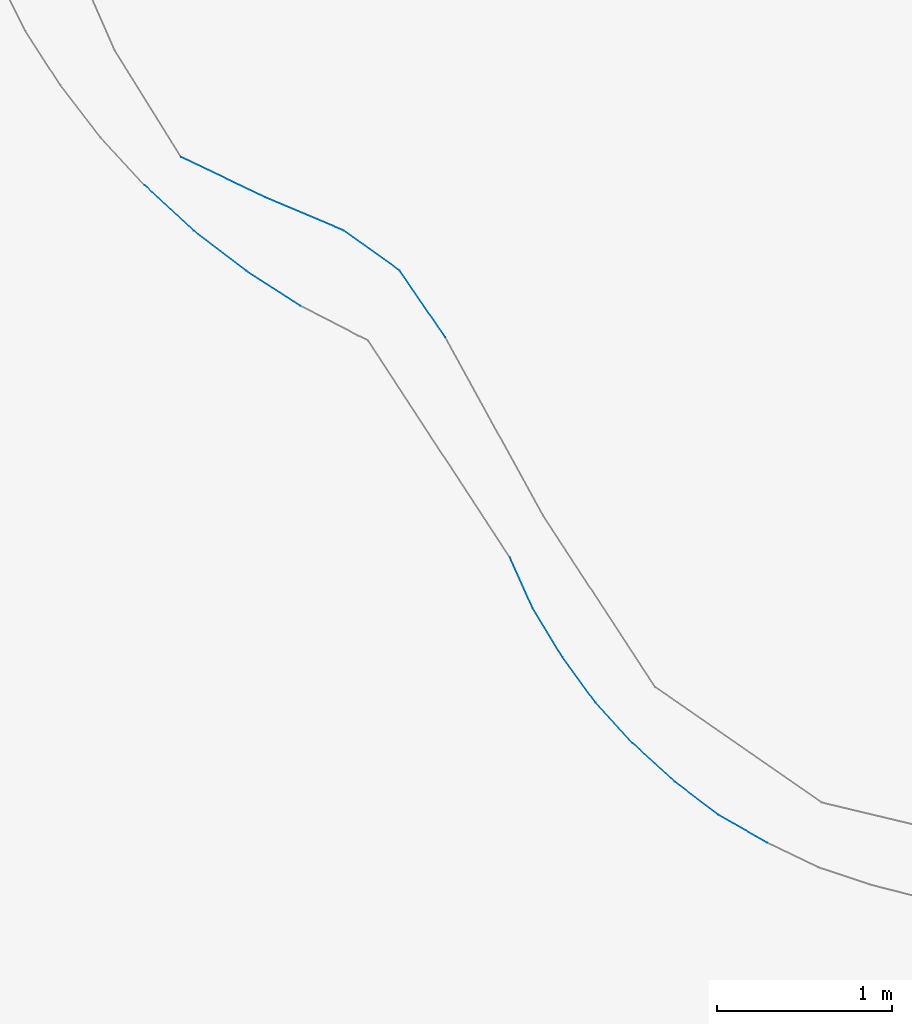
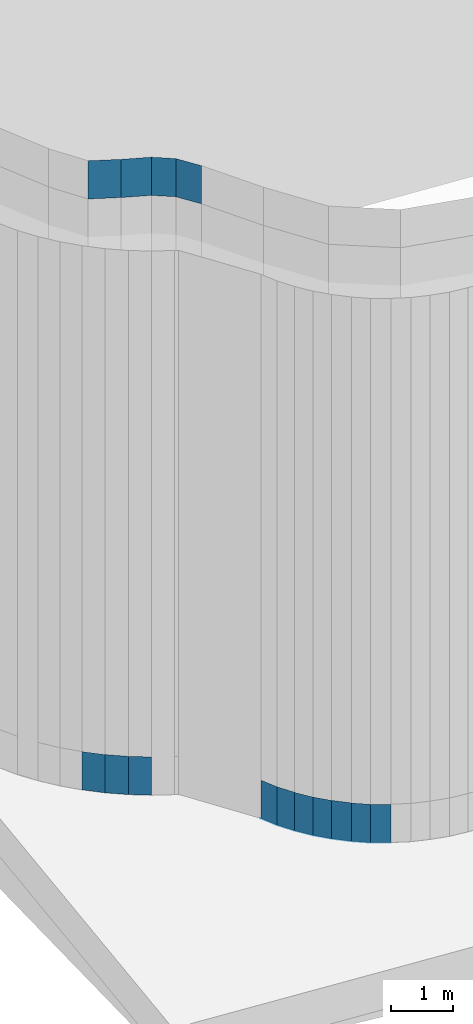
# Not in any storey, part 95 of 136: 33 walls.
"""IFC4 building model written with IfcOpenShell, lengths in metres."""

from ifc_helpers import new_model, entity, si_unit, converted_unit, frame, origin, place, context, subcontext, project, spatial, face_set, surface_model, element, save


model = new_model("IFC4")

# Units and contexts
model_context = context("Model", 3, precision=1e-05, world=origin())
body_context = subcontext(model_context, "Body", "Model", "MODEL_VIEW")
ifc_project = project(units=[converted_unit("PLANEANGLEUNIT", "DEGREE", entity("IfcRatioMeasure", 0.0174532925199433), si_unit("PLANEANGLEUNIT", "RADIAN"), dimensions=[0, 0, 0, 0, 0, 0, 0]), si_unit("AREAUNIT", "SQUARE_METRE"), si_unit("LENGTHUNIT", "METRE")], contexts=[model_context])

# Site, building
site_placement = place(None, origin())
site = spatial("IfcSite", under=ifc_project, at=site_placement, Name="_site")
building_placement = place(site_placement, origin())
building = spatial("IfcBuilding", under=site, at=building_placement, Name="_building")

# Walls
wall_1_placement = place(building_placement, origin())
element("IfcWall", 1, at=wall_1_placement, inside=building, Name="Wall", PredefinedType="NOTDEFINED", context=body_context, shape_type="SurfaceModel", body=[
    surface_model("IfcFaceBasedSurfaceModel", [(178.81, 53.88, 37.93), (179.0, 53.62, 37.93), (179.0, 53.62, 38.68), (178.81, 53.88, 38.68)], [face_set([[[0, 1, 2, 3]]])]),
])
wall_2_placement = place(building_placement, origin())
element("IfcWall", 2, at=wall_2_placement, inside=building, Name="Wall", PredefinedType="NOTDEFINED", context=body_context, shape_type="SurfaceModel", body=[
    surface_model("IfcFaceBasedSurfaceModel", [(179.21, 53.39, 37.93), (179.45, 53.17, 37.93), (179.45, 53.17, 38.68), (179.21, 53.39, 38.68)], [face_set([[[0, 1, 2, 3]]])]),
])
wall_3_placement = place(building_placement, origin())
element("IfcWall", 3, at=wall_3_placement, inside=building, Name="Wall", PredefinedType="NOTDEFINED", context=body_context, shape_type="SurfaceModel", body=[
    surface_model("IfcFaceBasedSurfaceModel", [(177.11, 56.51, 49.344), (176.63, 56.74, 49.344), (176.63, 56.74, 50.094), (177.11, 56.51, 50.094)], [face_set([[[0, 1, 2, 3]]])]),
])
wall_4_placement = place(building_placement, origin())
element("IfcWall", 4, at=wall_4_placement, inside=building, Name="Wall", PredefinedType="NOTDEFINED", context=body_context, shape_type="SurfaceModel", body=[
    surface_model("IfcFaceBasedSurfaceModel", [(177.56, 56.32, 49.344), (177.11, 56.51, 49.344), (177.11, 56.51, 50.094), (177.56, 56.32, 50.094)], [face_set([[[0, 1, 2, 3]]])]),
])
wall_5_placement = place(building_placement, origin())
element("IfcWall", 5, at=wall_5_placement, inside=building, Name="Wall", PredefinedType="NOTDEFINED", context=body_context, shape_type="SurfaceModel", body=[
    surface_model("IfcFaceBasedSurfaceModel", [(177.0, 56.09, 37.93), (177.31, 55.89, 37.93), (177.31, 55.89, 38.68), (177.0, 56.09, 38.68)], [face_set([[[0, 1, 2, 3]]])]),
])
wall_6_placement = place(building_placement, origin())
element("IfcWall", 6, at=wall_6_placement, inside=building, Name="Wall", PredefinedType="NOTDEFINED", context=body_context, shape_type="SurfaceModel", body=[
    surface_model("IfcFaceBasedSurfaceModel", [(179.45, 53.17, 37.93), (179.7, 52.98, 37.93), (179.7, 52.98, 38.68), (179.45, 53.17, 38.68)], [face_set([[[0, 1, 2, 3]]])]),
])
wall_7_placement = place(building_placement, origin())
element("IfcWall", 7, at=wall_7_placement, inside=building, Name="Wall", PredefinedType="NOTDEFINED", context=body_context, shape_type="SurfaceModel", body=[
    surface_model("IfcFaceBasedSurfaceModel", [(179.0, 53.62, 37.93), (179.21, 53.39, 37.93), (179.21, 53.39, 38.68), (179.0, 53.62, 38.68)], [face_set([[[0, 1, 2, 3]]])]),
])
for number, where, name in (
    (8, (0.0, 0.0, 0.0), "Wall"),
    (9, (0.0, 0.0, 0.0), "Wall"),
):
    element("IfcWall", number, at=place(building_placement, frame(where)), inside=building, Name=name, PredefinedType="NOTDEFINED", context=body_context, shape_type="SurfaceModel", body=[
        surface_model("IfcFaceBasedSurfaceModel", [(178.14, 55.71, 49.344), (177.88, 56.09, 49.344), (177.88, 56.09, 50.094), (178.14, 55.71, 50.094)], [face_set([[[0, 1, 2, 3]]])]),
    ])
wall_8_placement = place(building_placement, origin())
element("IfcWall", 10, at=wall_8_placement, inside=building, Name="Wall", PredefinedType="NOTDEFINED", context=body_context, shape_type="SurfaceModel", body=[
    surface_model("IfcFaceBasedSurfaceModel", [(177.11, 56.51, 49.344), (176.63, 56.74, 49.344), (176.63, 56.74, 50.094), (177.11, 56.51, 50.094)], [face_set([[[0, 1, 2, 3]]])]),
])
wall_9_placement = place(building_placement, origin())
element("IfcWall", 11, at=wall_9_placement, inside=building, Name="Wall", PredefinedType="NOTDEFINED", context=body_context, shape_type="SurfaceModel", body=[
    surface_model("IfcFaceBasedSurfaceModel", [(177.56, 56.32, 49.344), (177.11, 56.51, 49.344), (177.11, 56.51, 50.094), (177.56, 56.32, 50.094)], [face_set([[[0, 1, 2, 3]]])]),
])
wall_10_placement = place(building_placement, origin())
element("IfcWall", 12, at=wall_10_placement, inside=building, Name="Wall", PredefinedType="NOTDEFINED", context=body_context, shape_type="SurfaceModel", body=[
    surface_model("IfcFaceBasedSurfaceModel", [(178.51, 54.45, 37.93), (178.64, 54.16, 37.93), (178.64, 54.16, 37.922), (178.51, 54.45, 37.923)], [face_set([[[0, 1, 2, 3]]])]),
])
wall_11_placement = place(building_placement, origin())
element("IfcWall", 13, at=wall_11_placement, inside=building, Name="Wall", PredefinedType="NOTDEFINED", context=body_context, shape_type="SurfaceModel", body=[
    surface_model("IfcFaceBasedSurfaceModel", [(178.64, 54.16, 37.93), (178.81, 53.88, 37.93), (178.81, 53.88, 37.923), (178.64, 54.16, 37.922)], [face_set([[[0, 1, 2, 3]]])]),
])
wall_12_placement = place(building_placement, origin())
element("IfcWall", 14, at=wall_12_placement, inside=building, Name="Wall", PredefinedType="NOTDEFINED", context=body_context, shape_type="SurfaceModel", body=[
    surface_model("IfcFaceBasedSurfaceModel", [(179.45, 53.17, 37.93), (179.7, 52.98, 37.93), (179.7, 52.98, 37.924), (179.45, 53.17, 37.924)], [face_set([[[0, 1, 2, 3]]])]),
])
wall_13_placement = place(building_placement, origin())
element("IfcWall", 15, at=wall_13_placement, inside=building, Name="Wall", PredefinedType="NOTDEFINED", context=body_context, shape_type="SurfaceModel", body=[
    surface_model("IfcFaceBasedSurfaceModel", [(179.21, 53.39, 37.93), (179.45, 53.17, 37.93), (179.45, 53.17, 37.924), (179.21, 53.39, 37.924)], [face_set([[[0, 1, 2, 3]]])]),
])
wall_14_placement = place(building_placement, origin())
element("IfcWall", 16, at=wall_14_placement, inside=building, Name="Wall", PredefinedType="NOTDEFINED", context=body_context, shape_type="SurfaceModel", body=[
    surface_model("IfcFaceBasedSurfaceModel", [(178.81, 53.88, 37.93), (179.0, 53.62, 37.93), (179.0, 53.62, 37.924), (178.81, 53.88, 37.923)], [face_set([[[0, 1, 2, 3]]])]),
])
wall_15_placement = place(building_placement, origin())
element("IfcWall", 17, at=wall_15_placement, inside=building, Name="Wall", PredefinedType="NOTDEFINED", context=body_context, shape_type="SurfaceModel", body=[
    surface_model("IfcFaceBasedSurfaceModel", [(179.7, 52.98, 37.93), (179.98, 52.82, 37.93), (179.98, 52.82, 38.68), (179.7, 52.98, 38.68)], [face_set([[[0, 1, 2, 3]]])]),
])
wall_16_placement = place(building_placement, origin())
element("IfcWall", 18, at=wall_16_placement, inside=building, Name="Wall", PredefinedType="NOTDEFINED", context=body_context, shape_type="SurfaceModel", body=[
    surface_model("IfcFaceBasedSurfaceModel", [(179.7, 52.98, 37.93), (179.98, 52.82, 37.93), (179.98, 52.82, 37.925), (179.7, 52.98, 37.924)], [face_set([[[0, 1, 2, 3]]])]),
])
wall_17_placement = place(building_placement, origin())
element("IfcWall", 19, at=wall_17_placement, inside=building, Name="Wall", PredefinedType="NOTDEFINED", context=body_context, shape_type="SurfaceModel", body=[
    surface_model("IfcFaceBasedSurfaceModel", [(179.0, 53.62, 37.93), (179.21, 53.39, 37.93), (179.21, 53.39, 37.924), (179.0, 53.62, 37.924)], [face_set([[[0, 1, 2, 3]]])]),
])
wall_18_placement = place(building_placement, origin())
element("IfcWall", 20, at=wall_18_placement, inside=building, Name="Wall", PredefinedType="NOTDEFINED", context=body_context, shape_type="SurfaceModel", body=[
    surface_model("IfcFaceBasedSurfaceModel", [(179.7, 52.98, 37.93), (179.98, 52.82, 37.93), (179.98, 52.82, 38.68), (179.7, 52.98, 38.68)], [face_set([[[0, 1, 2, 3]]])]),
])
wall_19_placement = place(building_placement, origin())
element("IfcWall", 21, at=wall_19_placement, inside=building, Name="Wall", PredefinedType="NOTDEFINED", context=body_context, shape_type="SurfaceModel", body=[
    surface_model("IfcFaceBasedSurfaceModel", [(179.21, 53.39, 37.93), (179.45, 53.17, 37.93), (179.45, 53.17, 38.68), (179.21, 53.39, 38.68)], [face_set([[[0, 1, 2, 3]]])]),
])
wall_20_placement = place(building_placement, origin())
element("IfcWall", 22, at=wall_20_placement, inside=building, Name="Wall", PredefinedType="NOTDEFINED", context=body_context, shape_type="SurfaceModel", body=[
    surface_model("IfcFaceBasedSurfaceModel", [(178.81, 53.88, 37.93), (179.0, 53.62, 37.93), (179.0, 53.62, 38.68), (178.81, 53.88, 38.68)], [face_set([[[0, 1, 2, 3]]])]),
])
wall_21_placement = place(building_placement, origin())
element("IfcWall", 23, at=wall_21_placement, inside=building, Name="Wall", PredefinedType="NOTDEFINED", context=body_context, shape_type="SurfaceModel", body=[
    surface_model("IfcFaceBasedSurfaceModel", [(178.64, 54.16, 37.93), (178.81, 53.88, 37.93), (178.81, 53.88, 38.68), (178.64, 54.16, 38.68)], [face_set([[[0, 1, 2, 3]]])]),
])
wall_22_placement = place(building_placement, origin())
element("IfcWall", 24, at=wall_22_placement, inside=building, Name="Wall", PredefinedType="NOTDEFINED", context=body_context, shape_type="SurfaceModel", body=[
    surface_model("IfcFaceBasedSurfaceModel", [(178.51, 54.45, 37.93), (178.64, 54.16, 37.93), (178.64, 54.16, 38.68), (178.51, 54.45, 38.68)], [face_set([[[0, 1, 2, 3]]])]),
])
wall_23_placement = place(building_placement, origin())
element("IfcWall", 25, at=wall_23_placement, inside=building, Name="Wall", PredefinedType="NOTDEFINED", context=body_context, shape_type="SurfaceModel", body=[
    surface_model("IfcFaceBasedSurfaceModel", [(177.0, 56.09, 37.93), (177.31, 55.89, 37.93), (177.31, 55.89, 38.68), (177.0, 56.09, 38.68)], [face_set([[[0, 1, 2, 3]]])]),
])
wall_24_placement = place(building_placement, origin())
element("IfcWall", 26, at=wall_24_placement, inside=building, Name="Wall", PredefinedType="NOTDEFINED", context=body_context, shape_type="SurfaceModel", body=[
    surface_model("IfcFaceBasedSurfaceModel", [(176.42, 56.58, 37.93), (176.7, 56.32, 37.93), (176.7, 56.32, 38.68), (176.42, 56.58, 38.68)], [face_set([[[0, 1, 2, 3]]])]),
])
wall_25_placement = place(building_placement, origin())
element("IfcWall", 27, at=wall_25_placement, inside=building, Name="Wall", PredefinedType="NOTDEFINED", context=body_context, shape_type="SurfaceModel", body=[
    surface_model("IfcFaceBasedSurfaceModel", [(178.51, 54.45, 37.93), (178.64, 54.16, 37.93), (178.64, 54.16, 38.68), (178.51, 54.45, 38.68)], [face_set([[[0, 1, 2, 3]]])]),
])
wall_26_placement = place(building_placement, origin())
element("IfcWall", 28, at=wall_26_placement, inside=building, Name="Wall", PredefinedType="NOTDEFINED", context=body_context, shape_type="SurfaceModel", body=[
    surface_model("IfcFaceBasedSurfaceModel", [(176.7, 56.32, 37.93), (177.0, 56.09, 37.93), (177.0, 56.09, 38.68), (176.7, 56.32, 38.68)], [face_set([[[0, 1, 2, 3]]])]),
])
wall_27_placement = place(building_placement, origin())
element("IfcWall", 29, at=wall_27_placement, inside=building, Name="Wall", PredefinedType="NOTDEFINED", context=body_context, shape_type="SurfaceModel", body=[
    surface_model("IfcFaceBasedSurfaceModel", [(177.88, 56.09, 49.344), (177.56, 56.32, 49.344), (177.56, 56.32, 50.094), (177.88, 56.09, 50.094)], [face_set([[[0, 1, 2, 3]]])]),
])
wall_28_placement = place(building_placement, origin())
element("IfcWall", 30, at=wall_28_placement, inside=building, Name="Wall", PredefinedType="NOTDEFINED", context=body_context, shape_type="SurfaceModel", body=[
    surface_model("IfcFaceBasedSurfaceModel", [(179.45, 53.17, 37.93), (179.7, 52.98, 37.93), (179.7, 52.98, 38.68), (179.45, 53.17, 38.68)], [face_set([[[0, 1, 2, 3]]])]),
])
wall_29_placement = place(building_placement, origin())
element("IfcWall", 31, at=wall_29_placement, inside=building, Name="Wall", PredefinedType="NOTDEFINED", context=body_context, shape_type="SurfaceModel", body=[
    surface_model("IfcFaceBasedSurfaceModel", [(177.88, 56.09, 49.344), (177.56, 56.32, 49.344), (177.56, 56.32, 50.094), (177.88, 56.09, 50.094)], [face_set([[[0, 1, 2, 3]]])]),
])
wall_30_placement = place(building_placement, origin())
element("IfcWall", 32, at=wall_30_placement, inside=building, Name="Wall", PredefinedType="NOTDEFINED", context=body_context, shape_type="SurfaceModel", body=[
    surface_model("IfcFaceBasedSurfaceModel", [(179.0, 53.62, 37.93), (179.21, 53.39, 37.93), (179.21, 53.39, 38.68), (179.0, 53.62, 38.68)], [face_set([[[0, 1, 2, 3]]])]),
])
wall_31_placement = place(building_placement, origin())
element("IfcWall", 33, at=wall_31_placement, inside=building, Name="Wall", PredefinedType="NOTDEFINED", context=body_context, shape_type="SurfaceModel", body=[
    surface_model("IfcFaceBasedSurfaceModel", [(178.64, 54.16, 37.93), (178.81, 53.88, 37.93), (178.81, 53.88, 38.68), (178.64, 54.16, 38.68)], [face_set([[[0, 1, 2, 3]]])]),
])

save(model, "model.ifc")
